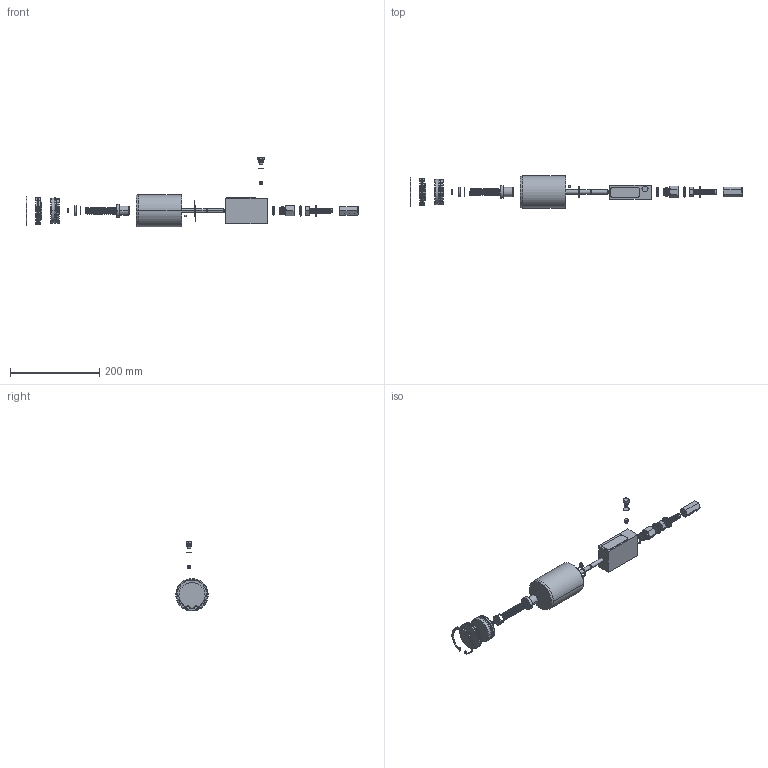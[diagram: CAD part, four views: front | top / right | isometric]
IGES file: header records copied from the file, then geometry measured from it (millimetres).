
Start section:  PTC IGES file: 563306-en-k.igs
Global section: file name: 563306-en-k.igs; native system: Creo Parametric by PTC Inc.; preprocessor: 2021072; author: qtmwp1; organization: Unknown; date: 20220214.141158; units: inch
Bounding box: 743.48 x 72.58 x 156.7 mm (x, y, z)
Surface area: 106946.3 mm2 (no closed solid volume)
Topology: 0 solids, 0 shells, 395 faces, 1847 edges, 1847 vertices
Faces by surface type: revolution 256, bspline 139
